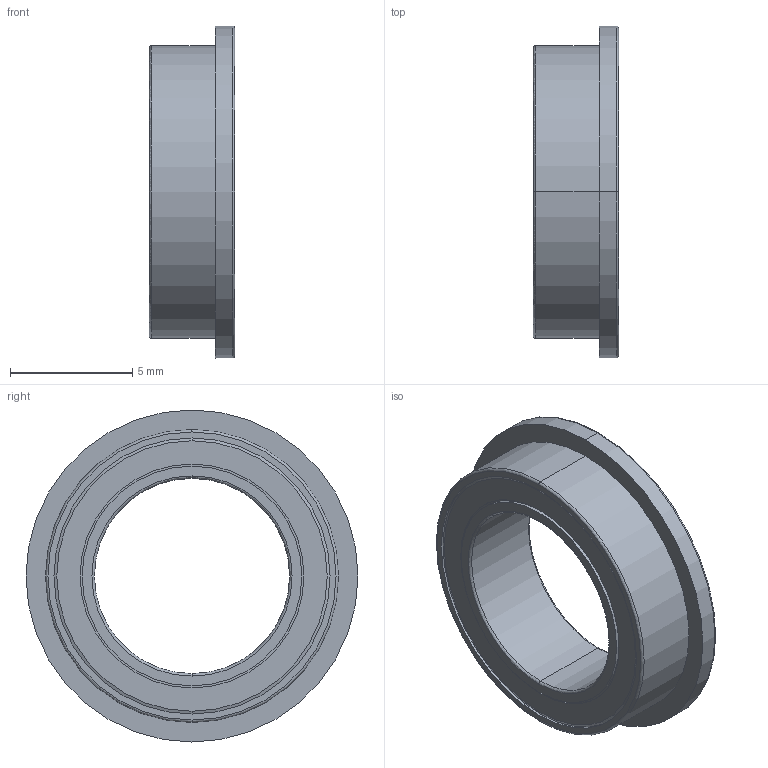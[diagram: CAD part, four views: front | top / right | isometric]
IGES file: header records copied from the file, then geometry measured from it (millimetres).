
Start section:  PTC IGES file: bearing_mf128zz.igs
Global section: file name: bearing_mf128zz.igs; native system: Pro/ENGINEER by Parametric Technology Corporation; preprocessor: 2006170; author: bono; organization: Unknown; date: 20061206.132147; units: millimetre
Bounding box: 3.5 x 13.6 x 13.6 mm (x, y, z)
Surface area: 773.4 mm2 (no closed solid volume)
Topology: 0 solids, 0 shells, 139 faces, 560 edges, 476 vertices
Faces by surface type: revolution 128, bspline 11
